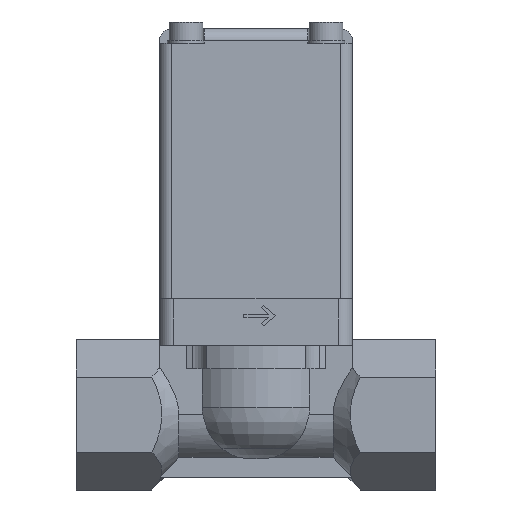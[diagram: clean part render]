
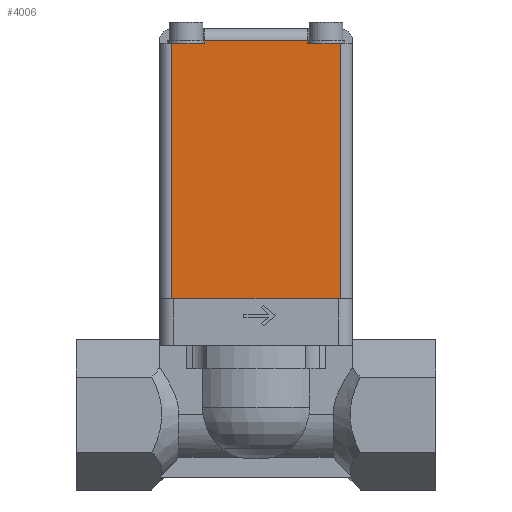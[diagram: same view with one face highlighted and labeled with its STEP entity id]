
A CAD part, top view. The second image highlights one B-rep face of the part: STEP entity #4006.
In plain terms, the highlighted planar face has unit normal (0, 0, 1).
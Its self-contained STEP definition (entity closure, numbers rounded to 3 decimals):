
#1129=ORIENTED_EDGE('',*,*,#1935,.T.);
#1130=ORIENTED_EDGE('',*,*,#1999,.F.);
#1131=ORIENTED_EDGE('',*,*,#1950,.T.);
#1132=ORIENTED_EDGE('',*,*,#2000,.T.);
#1133=ORIENTED_EDGE('',*,*,#1952,.F.);
#1134=ORIENTED_EDGE('',*,*,#2001,.F.);
#1135=ORIENTED_EDGE('',*,*,#1903,.F.);
#1136=ORIENTED_EDGE('',*,*,#2002,.T.);
#1903=EDGE_CURVE('',#2379,#2380,#2737,.T.);
#1935=EDGE_CURVE('',#2412,#2411,#2765,.T.);
#1950=EDGE_CURVE('',#2424,#2426,#2776,.T.);
#1952=EDGE_CURVE('',#2427,#2429,#2777,.T.);
#1999=EDGE_CURVE('',#2424,#2411,#2806,.T.);
#2000=EDGE_CURVE('',#2426,#2429,#2807,.T.);
#2001=EDGE_CURVE('',#2380,#2427,#2808,.T.);
#2002=EDGE_CURVE('',#2379,#2412,#2809,.T.);
#2379=VERTEX_POINT('',#7570);
#2380=VERTEX_POINT('',#7572);
#2411=VERTEX_POINT('',#7639);
#2412=VERTEX_POINT('',#7641);
#2424=VERTEX_POINT('',#7667);
#2426=VERTEX_POINT('',#7671);
#2427=VERTEX_POINT('',#7675);
#2429=VERTEX_POINT('',#7678);
#2737=LINE('',#7571,#3089);
#2765=LINE('',#7640,#3117);
#2776=LINE('',#7672,#3128);
#2777=LINE('',#7677,#3129);
#2806=LINE('',#7776,#3158);
#2807=LINE('',#7777,#3159);
#2808=LINE('',#7778,#3160);
#2809=LINE('',#7779,#3161);
#3089=VECTOR('',#6048,1000.);
#3117=VECTOR('',#6094,1000.);
#3128=VECTOR('',#6117,1000.);
#3129=VECTOR('',#6122,1000.);
#3158=VECTOR('',#6203,1000.);
#3159=VECTOR('',#6204,1000.);
#3160=VECTOR('',#6205,1000.);
#3161=VECTOR('',#6206,1000.);
#3367=EDGE_LOOP('',(#1129,#1130,#1131,#1132,#1133,#1134,#1135,#1136));
#3629=FACE_BOUND('',#3367,.T.);
#3825=PLANE('',#5270);
#4006=ADVANCED_FACE('',(#3629),#3825,.F.);
#5270=AXIS2_PLACEMENT_3D('',#7775,#6201,#6202);
#6048=DIRECTION('',(0.,-1.,0.));
#6094=DIRECTION('',(0.,-1.,0.));
#6117=DIRECTION('',(0.,-1.,0.));
#6122=DIRECTION('',(0.,-1.,0.));
#6201=DIRECTION('',(0.,0.,-1.));
#6202=DIRECTION('',(-1.,0.,0.));
#6203=DIRECTION('',(1.,0.,0.));
#6204=DIRECTION('',(1.,0.,0.));
#6205=DIRECTION('',(1.,0.,0.));
#6206=DIRECTION('',(-1.,0.,0.));
#7570=CARTESIAN_POINT('',(10.7,53.5,20.));
#7571=CARTESIAN_POINT('',(10.7,56.,20.));
#7572=CARTESIAN_POINT('',(10.7,53.,20.));
#7639=CARTESIAN_POINT('',(-10.7,53.,20.));
#7640=CARTESIAN_POINT('',(-10.7,56.,20.));
#7641=CARTESIAN_POINT('',(-10.7,53.5,20.));
#7667=CARTESIAN_POINT('',(-17.5,53.,20.));
#7671=CARTESIAN_POINT('',(-17.5,0.,20.));
#7672=CARTESIAN_POINT('',(-17.5,56.,20.));
#7675=CARTESIAN_POINT('',(17.5,53.,20.));
#7677=CARTESIAN_POINT('',(17.5,56.,20.));
#7678=CARTESIAN_POINT('',(17.5,0.,20.));
#7775=CARTESIAN_POINT('',(-20.,56.,20.));
#7776=CARTESIAN_POINT('',(-20.,53.,20.));
#7777=CARTESIAN_POINT('',(-20.,0.,20.));
#7778=CARTESIAN_POINT('',(-20.,53.,20.));
#7779=CARTESIAN_POINT('',(20.,53.5,20.));
